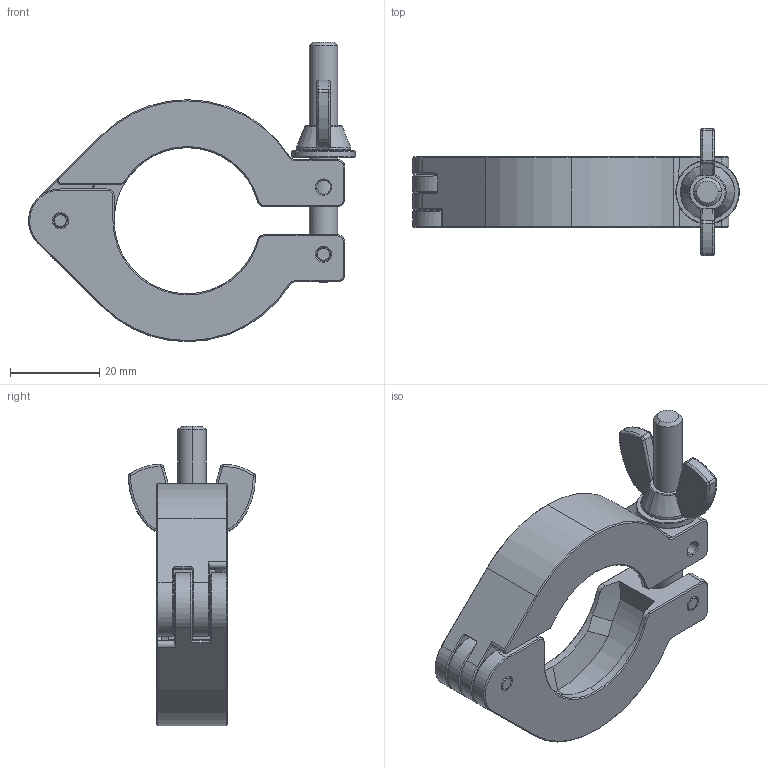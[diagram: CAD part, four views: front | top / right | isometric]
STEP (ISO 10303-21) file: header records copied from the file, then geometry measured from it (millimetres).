
FILE_DESCRIPTION (( 'STEP AP203' ), '1' );
FILE_NAME ('202215.stp', '2019-01-22T22:19:42', ( '' ), ( '' ), 'SwSTEP 2.0', 'SolidWorks 2012', '' );
FILE_SCHEMA (( 'CONFIG_CONTROL_DESIGN' ));
Length unit declared in the file: centimetre
Products named in the file (1): 202215
Bounding box: 73.38 x 28.57 x 67.26 mm (x, y, z)
Volume: 21433.3 mm3; surface area: 13171.9 mm2
Topology: 1 solids, 2 shells, 369 faces, 897 edges, 535 vertices
Faces by surface type: cone 128, plane 110, cylinder 88, bspline 43
Entity records: 12725 total; most frequent: CARTESIAN_POINT 4324, ORIENTED_EDGE 1784, DIRECTION 1715, EDGE_CURVE 892, AXIS2_PLACEMENT_3D 662, VERTEX_POINT 535, LINE 391, VECTOR 391
